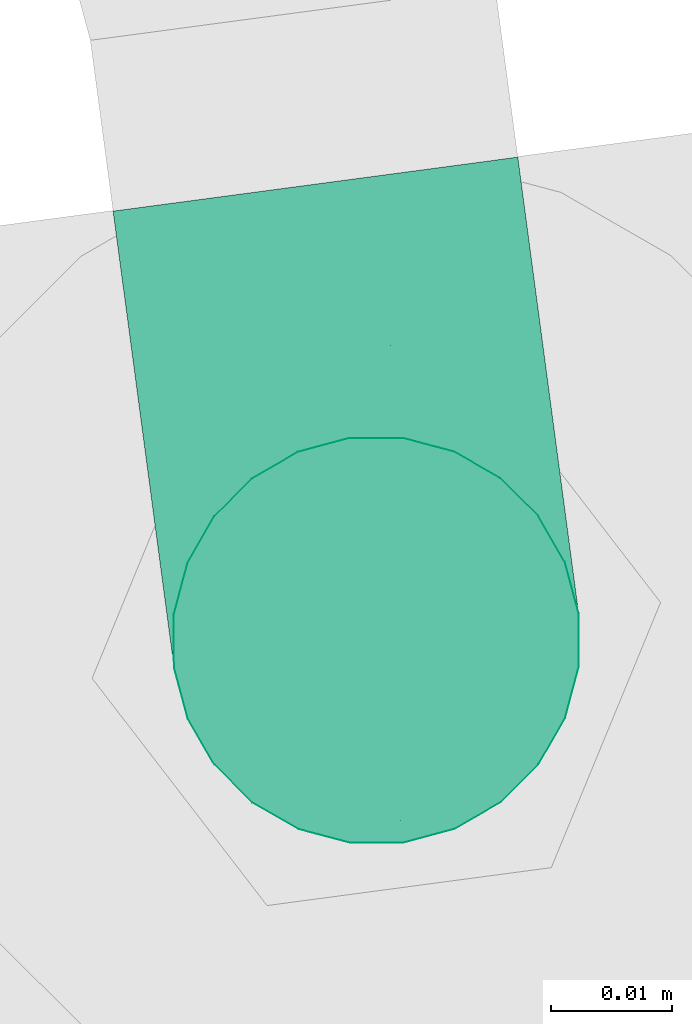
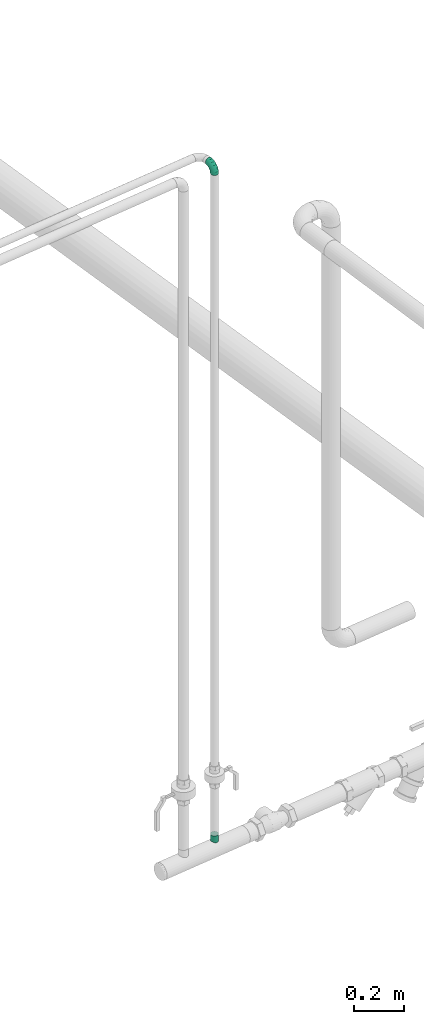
# One storey, part 361 of 374: 2 flow segments.
"""IFC2X3 building model written with IfcOpenShell, lengths in metres."""

from ifc_helpers import new_model, si_unit, direction, origin, place, context, subcontext, project, spatial, open_shell, surface_model, source, transform, mapped, element, save


model = new_model("IFC2X3")

# Units and contexts
model_context = context("Model", 3, precision=1e-05, world=origin(), true_north=direction((-0.4480736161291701, 0.8939966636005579)))
body_context = subcontext(model_context, "Body", "Model", "MODEL_VIEW")
ifc_project = project(units=[si_unit("LENGTHUNIT", "METRE"), si_unit("AREAUNIT", "SQUARE_METRE"), si_unit("VOLUMEUNIT", "CUBIC_METRE"), si_unit("PLANEANGLEUNIT", "RADIAN"), si_unit("THERMODYNAMICTEMPERATUREUNIT", "KELVIN"), si_unit("MASSUNIT", "GRAM", prefix="KILO"), si_unit("TIMEUNIT", "SECOND")], contexts=[model_context])

# Site, building, storey
site_placement = place(None, origin())
site = spatial("IfcSite", under=ifc_project, at=site_placement, Name="Site 1", CompositionType="ELEMENT")
building_placement = place(site_placement, origin())
building = spatial("IfcBuilding", under=site, at=building_placement, Name="Undefined", CompositionType="ELEMENT")
storey_placement = place(building_placement, origin())
storey = spatial("IfcBuildingStorey", under=building, at=storey_placement, Name="Rez de chauss\x8ee", CompositionType="ELEMENT", Elevation=0.0)

# Flow segments
shared_shape_1 = source(origin(), body_context, "Body", "SurfaceModel", [
    surface_model("IfcFaceBasedSurfaceModel", [(0.0002507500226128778, 0.004398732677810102, 0.0), (0.0, 0.0, 0.0), (0.030250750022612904, 0.0, 0.0), (0.030250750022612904, 0.004398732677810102, 0.0), (-0.0006936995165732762, -0.0042488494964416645, -0.0011384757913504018), (0.030250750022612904, -0.0042488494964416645, -0.0011384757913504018), (-0.001662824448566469, -0.008058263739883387, -0.0033378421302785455), (0.030250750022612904, -0.008058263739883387, -0.0033378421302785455), (-0.0026586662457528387, -0.011168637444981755, -0.0064482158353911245), (0.030250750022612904, -0.011168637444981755, -0.0064482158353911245), (-0.0034059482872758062, -0.013368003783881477, -0.010257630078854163), (0.030250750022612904, -0.013368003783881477, -0.010257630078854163), (-0.0036835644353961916, -0.014506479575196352, -0.014506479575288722), (0.030250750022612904, -0.014506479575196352, -0.014506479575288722), (-0.0034059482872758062, -0.014506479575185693, -0.018905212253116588), (0.030250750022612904, -0.014506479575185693, -0.018905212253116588), (-0.0026586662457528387, -0.013368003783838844, -0.023154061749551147), (0.030250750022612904, -0.013368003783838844, -0.023154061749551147), (-0.001662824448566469, -0.011168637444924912, -0.026963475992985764), (0.030250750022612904, -0.011168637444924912, -0.026963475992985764), (-0.0006936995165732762, -0.00805826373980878, -0.030073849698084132), (0.030250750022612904, -0.00805826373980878, -0.030073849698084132), (0.0, -0.004248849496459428, -0.03227321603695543), (0.030250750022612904, -0.004248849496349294, -0.03227321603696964), (0.0002507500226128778, 9.2370555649e-14, -0.033411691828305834), (0.030250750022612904, 9.2370555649e-14, -0.033411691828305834), (0.0, 0.00439873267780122, -0.03341169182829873), (0.030250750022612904, 0.004398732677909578, -0.033411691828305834), (-0.0006936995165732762, 0.00864758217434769, -0.03227321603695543), (0.030250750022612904, 0.00864758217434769, -0.03227321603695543), (-0.001662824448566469, 0.01245699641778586, -0.0300738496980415), (0.030250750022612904, 0.01245699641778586, -0.0300738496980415), (-0.0026586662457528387, 0.015567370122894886, -0.0269634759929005), (0.030250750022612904, 0.015567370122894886, -0.0269634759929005), (-0.0034059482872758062, 0.017766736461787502, -0.02315406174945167), (0.030250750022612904, 0.017766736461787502, -0.02315406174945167), (-0.0036835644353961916, 0.018905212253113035, -0.018905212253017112), (0.030250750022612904, 0.018905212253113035, -0.018905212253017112), (-0.0034059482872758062, 0.018905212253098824, -0.014506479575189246), (0.030250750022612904, 0.018905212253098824, -0.014506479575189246), (-0.0026586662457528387, 0.017766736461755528, -0.010257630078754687), (0.030250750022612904, 0.017766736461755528, -0.010257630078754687), (-0.001662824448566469, 0.01556737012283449, -0.006448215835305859), (0.030250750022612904, 0.01556737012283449, -0.006448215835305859), (-0.0006936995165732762, 0.012456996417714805, -0.003337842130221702), (0.030250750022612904, 0.012456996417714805, -0.003337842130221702), (0.0, 0.00864758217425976, -0.0011384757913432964), (0.030250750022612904, 0.008647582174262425, -0.00113847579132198)], [open_shell([[[0, 1, 2, 3]], [[1, 4, 5, 2]], [[4, 6, 7, 5]], [[6, 8, 9, 7]], [[8, 10, 11, 9]], [[10, 12, 13, 11]], [[12, 14, 15, 13]], [[14, 16, 17, 15]], [[16, 18, 19, 17]], [[18, 20, 21, 19]], [[20, 22, 23, 21]], [[22, 24, 25, 23]], [[24, 26, 27, 25]], [[26, 28, 29, 27]], [[28, 30, 31, 29]], [[30, 32, 33, 31]], [[32, 34, 35, 33]], [[34, 36, 37, 35]], [[36, 38, 39, 37]], [[38, 40, 41, 39]], [[40, 42, 43, 41]], [[42, 44, 45, 43]], [[44, 46, 47, 45]], [[46, 0, 3, 47]]])]),
])
flow_segment_1_placement = place(storey_placement, origin())
element("IfcFlowSegment", 1, at=flow_segment_1_placement, inside=storey, Name="Piquage sur circulaire 90°", ObjectType="Piquage sur circulaire 90°", context=body_context, shape_type="MappedRepresentation", body=[
    mapped(shared_shape_1, transform((66.07952184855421, 20.35199219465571, 0.7382320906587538), x_axis=(0.0, 0.0, 1.0), y_axis=(-0.26050450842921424, 0.965472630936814, 0.0), z_axis=(-0.965472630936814, -0.26050450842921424, 0.0))),
])
shared_shape_2 = source(origin(), body_context, "Body", "SurfaceModel", [
    surface_model("IfcFaceBasedSurfaceModel", [(0.014318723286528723, 0.0, 8.8817842e-16), (0.01424378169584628, 0.004398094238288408, 0.0), (7.494159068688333e-05, 0.004398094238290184, 0.0), (0.0, 0.0, 0.0), (-0.013611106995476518, 0.004872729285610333, -0.0036363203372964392), (-0.01383082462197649, 0.000479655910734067, -0.003674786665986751), (-0.02588168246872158, 0.005789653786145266, -0.010661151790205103), (-0.026231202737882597, 0.0014062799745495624, -0.010773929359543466), (-0.03590056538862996, 0.007086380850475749, -0.02059576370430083), (-0.036356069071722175, 0.0027167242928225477, -0.020813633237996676), (-0.04298498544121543, 0.008674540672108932, -0.03276312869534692), (-0.0435154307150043, 0.0043216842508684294, -0.03310970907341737), (-0.046652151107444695, 0.010445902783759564, -0.04633406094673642), (-0.04722138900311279, 0.006111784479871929, -0.04682419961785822), (0.01402406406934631, 0.008643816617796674, -0.00112889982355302), (0.0002946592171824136, 0.00864381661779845, -0.001128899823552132), (-0.01296692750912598, 0.009103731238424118, -0.00465244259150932), (-0.02485694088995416, 0.009992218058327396, -0.011459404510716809), (-0.03456509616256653, 0.011248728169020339, -0.021085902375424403), (-0.041429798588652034, 0.012787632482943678, -0.03287590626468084), (-0.04498323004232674, 0.014504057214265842, -0.04602594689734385), (0.013674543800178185, 0.012447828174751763, -0.0033097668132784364), (0.0006441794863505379, 0.012447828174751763, -0.003309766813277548), (-0.011942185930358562, 0.012884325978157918, -0.006653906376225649), (-0.023226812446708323, 0.013727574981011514, -0.01311428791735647), (-0.032440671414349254, 0.014920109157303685, -0.022250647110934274), (-0.038955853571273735, 0.016380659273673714, -0.03344035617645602), (-0.04232836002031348, 0.01800969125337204, -0.04592085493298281), (0.013219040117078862, 0.01555089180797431, -0.006393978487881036), (0.0010996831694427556, 0.015550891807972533, -0.006393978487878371), (-0.010606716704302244, 0.015956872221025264, -0.009504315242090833), (-0.021102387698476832, 0.016741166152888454, -0.01551302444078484), (-0.029672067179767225, 0.01785032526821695, -0.024010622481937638), (-0.035731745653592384, 0.01920876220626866, -0.03441801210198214), (-0.038868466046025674, 0.02072390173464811, -0.04602594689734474), (0.012688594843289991, 0.01774153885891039, -0.010171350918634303), (0.0016301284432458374, 0.01774153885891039, -0.010171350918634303), (-0.009051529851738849, 0.018111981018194, -0.013009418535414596), (-0.01862844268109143, 0.01882762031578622, -0.018492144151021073), (-0.026447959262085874, 0.019839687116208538, -0.02624588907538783), (-0.03197719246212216, 0.021079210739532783, -0.03574224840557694), (-0.034839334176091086, 0.022461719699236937, -0.04633406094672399), (0.012119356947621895, 0.018870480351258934, -0.014384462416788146), (0.0021993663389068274, 0.018870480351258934, -0.014384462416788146), (-0.007382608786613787, 0.019202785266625, -0.016930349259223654), (-0.015973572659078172, 0.019844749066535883, -0.021848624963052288), (-0.022988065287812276, 0.020752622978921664, -0.02880411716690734), (-0.027948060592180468, 0.021864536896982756, -0.03732282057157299), (-0.030515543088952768, 0.023104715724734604, -0.04682419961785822), (0.0115501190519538, 0.018860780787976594, -0.01874619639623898), (0.002768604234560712, 0.018860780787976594, -0.01874619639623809), (-0.005713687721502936, 0.019154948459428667, -0.020999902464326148), (-0.013318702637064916, 0.01972323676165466, -0.025353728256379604), (-0.019528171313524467, 0.02052691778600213, -0.03151096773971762), (-0.023918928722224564, 0.021511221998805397, -0.03905201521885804), (-0.02619175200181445, 0.02260907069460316, -0.04746296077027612), (0.011019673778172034, 0.01771310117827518, -0.022959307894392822), (0.0032990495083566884, 0.01771310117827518, -0.022959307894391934), (-0.004158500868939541, 0.017971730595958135, -0.0249407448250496), (-0.010844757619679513, 0.018471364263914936, -0.028768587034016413), (-0.01630406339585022, 0.019177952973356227, -0.03418197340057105), (-0.020164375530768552, 0.0200433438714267, -0.04081199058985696), (-0.022162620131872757, 0.02100856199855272, -0.04820681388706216), (0.010564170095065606, 0.015505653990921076, -0.02673668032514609), (0.0037545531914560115, 0.015505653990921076, -0.0267366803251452), (-0.002823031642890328, 0.01573376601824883, -0.028484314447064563), (-0.008720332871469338, 0.016174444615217, -0.03186048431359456), (-0.01353545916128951, 0.016797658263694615, -0.036635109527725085), (-0.016940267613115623, 0.017560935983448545, -0.042482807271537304), (-0.018702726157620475, 0.01841226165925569, -0.04900506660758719), (0.010214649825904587, 0.012388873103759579, -0.029820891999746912), (0.004104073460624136, 0.012388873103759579, -0.029820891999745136), (-0.0017982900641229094, 0.012593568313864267, -0.03138912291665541), (-0.007090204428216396, 0.012989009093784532, -0.03441871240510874), (-0.011411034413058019, 0.013548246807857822, -0.0387031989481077), (-0.014466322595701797, 0.014233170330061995, -0.04395060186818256), (-0.01604785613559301, 0.014997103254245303, -0.0498033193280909), (0.009994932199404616, 0.008575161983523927, -0.03200175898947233), (0.004323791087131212, 0.00857516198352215, -0.03200175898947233), (-0.001154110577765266, 0.00876513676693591, -0.03345721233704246), (-0.006065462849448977, 0.009132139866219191, -0.03626893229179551), (-0.0100755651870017, 0.009651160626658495, -0.04024530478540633), (-0.012911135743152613, 0.010286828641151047, -0.04511534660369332), (-0.014378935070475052, 0.010995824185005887, -0.05054717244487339), (0.009919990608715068, 0.004324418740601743, -0.03313065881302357), (0.004398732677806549, 0.004324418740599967, -0.03313065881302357), (-0.0009343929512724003, 0.004509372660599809, -0.03454764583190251), (-0.005715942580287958, 0.004866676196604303, -0.03728505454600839), (-0.009620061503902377, 0.005371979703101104, -0.041156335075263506), (-0.012380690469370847, 0.005990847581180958, -0.04589766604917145), (-0.013809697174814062, 0.006681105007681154, -0.05118593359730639), (0.009994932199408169, -7.367549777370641e-05, -0.03313065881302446), (0.004323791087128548, -7.36754977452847e-05, -0.03313065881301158), (-0.0011541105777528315, 0.00011629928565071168, -0.034586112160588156), (-0.006065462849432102, 0.000483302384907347, -0.03739783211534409), (-0.010075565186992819, 0.0010023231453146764, -0.04137420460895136), (-0.012911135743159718, 0.001637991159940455, -0.04624424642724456), (-0.014378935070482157, 0.002346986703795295, -0.05167607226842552), (0.010214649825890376, -0.004319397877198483, -0.03200175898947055), (0.00410407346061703, -0.0043193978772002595, -0.03200175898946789), (-0.0017982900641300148, -0.004114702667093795, -0.03356998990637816), (-0.007090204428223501, -0.0037192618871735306, -0.036599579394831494), (-0.011411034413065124, -0.00316002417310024, -0.04088406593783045), (-0.014466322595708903, -0.002475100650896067, -0.04613146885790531), (-0.016047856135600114, -0.0017111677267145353, -0.05198418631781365), (0.0105641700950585, -0.008123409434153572, -0.029820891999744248), (0.003754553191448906, -0.008123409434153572, -0.02982089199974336), (-0.0028230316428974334, -0.007895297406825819, -0.03156852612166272), (-0.008720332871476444, -0.007454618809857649, -0.03494469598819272), (-0.013535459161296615, -0.006831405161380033, -0.03971932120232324), (-0.016940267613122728, -0.006068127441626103, -0.04556701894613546), (-0.01870272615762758, -0.005216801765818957, -0.05208927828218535), (0.011019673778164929, -0.011226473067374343, -0.026736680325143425), (0.003299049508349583, -0.011226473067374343, -0.026736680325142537), (-0.004158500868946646, -0.010967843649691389, -0.028718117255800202), (-0.010844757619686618, -0.010468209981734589, -0.032545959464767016), (-0.016304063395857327, -0.009761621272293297, -0.037959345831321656), (-0.020164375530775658, -0.008896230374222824, -0.044589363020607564), (-0.022162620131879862, -0.007931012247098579, -0.051984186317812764), (0.011550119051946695, -0.013417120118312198, -0.02295930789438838), (0.0027686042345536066, -0.013417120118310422, -0.022959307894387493), (-0.005713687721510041, -0.013122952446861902, -0.02521301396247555), (-0.013318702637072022, -0.012554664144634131, -0.029566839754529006), (-0.019528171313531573, -0.011750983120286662, -0.035724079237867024), (-0.02391892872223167, -0.010766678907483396, -0.04326512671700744), (-0.026191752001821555, -0.009668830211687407, -0.05167607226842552), (0.01211935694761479, -0.014546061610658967, -0.018746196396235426), (0.002199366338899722, -0.014546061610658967, -0.018746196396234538), (-0.007382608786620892, -0.0142137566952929, -0.021292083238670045), (-0.015973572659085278, -0.013571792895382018, -0.02621035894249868), (-0.02298806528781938, -0.012663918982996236, -0.03316585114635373), (-0.027948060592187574, -0.011552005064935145, -0.04168455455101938), (-0.030515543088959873, -0.010311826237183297, -0.05118593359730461), (0.012688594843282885, -0.014536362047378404, -0.014384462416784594), (0.001630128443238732, -0.014536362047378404, -0.014384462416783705), (-0.009051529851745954, -0.014165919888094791, -0.017222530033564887), (-0.018628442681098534, -0.013450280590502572, -0.022705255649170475), (-0.02644795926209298, -0.012438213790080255, -0.03045900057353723), (-0.03197719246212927, -0.011198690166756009, -0.03995535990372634), (-0.03483933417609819, -0.009816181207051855, -0.05054717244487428), (0.013219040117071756, -0.013388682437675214, -0.010171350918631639), (0.0010996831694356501, -0.01338868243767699, -0.010171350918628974), (-0.010606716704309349, -0.01298270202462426, -0.013281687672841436), (-0.021102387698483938, -0.01219840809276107, -0.019290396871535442), (-0.02967206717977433, -0.011089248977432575, -0.02778799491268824), (-0.03573174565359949, -0.009730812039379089, -0.038195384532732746), (-0.03886846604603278, -0.008215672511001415, -0.04980331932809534), (0.01367454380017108, -0.011181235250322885, -0.006393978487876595), (0.0006441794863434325, -0.011181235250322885, -0.006393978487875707), (-0.011942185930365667, -0.01074473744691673, -0.009738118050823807), (-0.023226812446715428, -0.009901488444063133, -0.01619849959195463), (-0.03244067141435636, -0.008708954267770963, -0.02533485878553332), (-0.03895585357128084, -0.007248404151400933, -0.03652456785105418), (-0.04232836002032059, -0.005619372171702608, -0.04900506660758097), (0.014024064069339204, -0.008064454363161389, -0.003309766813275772), (0.0002946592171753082, -0.008064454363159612, -0.0033097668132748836), (-0.012966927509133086, -0.0076045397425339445, -0.006833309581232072), (-0.024856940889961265, -0.0067160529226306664, -0.01364027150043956), (-0.03456509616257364, -0.005459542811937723, -0.023266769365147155), (-0.04142979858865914, -0.003920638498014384, -0.03505677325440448), (-0.044983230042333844, -0.00220421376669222, -0.0482068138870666), (0.014243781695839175, -0.004250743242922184, -0.0011288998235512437), (7.494159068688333e-05, -0.004250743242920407, -0.0011288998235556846), (-0.013611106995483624, -0.0037761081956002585, -0.004765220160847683), (-0.025881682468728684, -0.002859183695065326, -0.011790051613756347), (-0.03590056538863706, -0.001562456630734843, -0.021724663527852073), (-0.04298498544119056, 2.570319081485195e-05, -0.033892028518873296), (-0.0466521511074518, 0.0017970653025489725, -0.047462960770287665)], [open_shell([[[0, 1, 2, 3]], [[3, 2, 4, 5]], [[5, 4, 6, 7]], [[7, 6, 8, 9]], [[9, 8, 10, 11]], [[11, 10, 12, 13]], [[1, 14, 15, 2]], [[2, 15, 16, 4]], [[4, 16, 17, 6]], [[6, 17, 18, 8]], [[8, 18, 19, 10]], [[10, 19, 20, 12]], [[14, 21, 22, 15]], [[15, 22, 23, 16]], [[16, 23, 24, 17]], [[17, 24, 25, 18]], [[18, 25, 26, 19]], [[19, 26, 27, 20]], [[21, 28, 29, 22]], [[22, 29, 30, 23]], [[23, 30, 31, 24]], [[24, 31, 32, 25]], [[25, 32, 33, 26]], [[26, 33, 34, 27]], [[28, 35, 36, 29]], [[29, 36, 37, 30]], [[30, 37, 38, 31]], [[31, 38, 39, 32]], [[32, 39, 40, 33]], [[33, 40, 41, 34]], [[35, 42, 43, 36]], [[36, 43, 44, 37]], [[37, 44, 45, 38]], [[38, 45, 46, 39]], [[39, 46, 47, 40]], [[40, 47, 48, 41]], [[42, 49, 50, 43]], [[43, 50, 51, 44]], [[44, 51, 52, 45]], [[45, 52, 53, 46]], [[46, 53, 54, 47]], [[47, 54, 55, 48]], [[49, 56, 57, 50]], [[50, 57, 58, 51]], [[51, 58, 59, 52]], [[52, 59, 60, 53]], [[53, 60, 61, 54]], [[54, 61, 62, 55]], [[56, 63, 64, 57]], [[57, 64, 65, 58]], [[58, 65, 66, 59]], [[59, 66, 67, 60]], [[60, 67, 68, 61]], [[61, 68, 69, 62]], [[63, 70, 71, 64]], [[64, 71, 72, 65]], [[65, 72, 73, 66]], [[66, 73, 74, 67]], [[67, 74, 75, 68]], [[68, 75, 76, 69]], [[70, 77, 78, 71]], [[71, 78, 79, 72]], [[72, 79, 80, 73]], [[73, 80, 81, 74]], [[74, 81, 82, 75]], [[75, 82, 83, 76]], [[77, 84, 85, 78]], [[78, 85, 86, 79]], [[79, 86, 87, 80]], [[80, 87, 88, 81]], [[81, 88, 89, 82]], [[82, 89, 90, 83]], [[84, 91, 92, 85]], [[85, 92, 93, 86]], [[86, 93, 94, 87]], [[87, 94, 95, 88]], [[88, 95, 96, 89]], [[89, 96, 97, 90]], [[91, 98, 99, 92]], [[92, 99, 100, 93]], [[93, 100, 101, 94]], [[94, 101, 102, 95]], [[95, 102, 103, 96]], [[96, 103, 104, 97]], [[98, 105, 106, 99]], [[99, 106, 107, 100]], [[100, 107, 108, 101]], [[101, 108, 109, 102]], [[102, 109, 110, 103]], [[103, 110, 111, 104]], [[105, 112, 113, 106]], [[106, 113, 114, 107]], [[107, 114, 115, 108]], [[108, 115, 116, 109]], [[109, 116, 117, 110]], [[110, 117, 118, 111]], [[112, 119, 120, 113]], [[113, 120, 121, 114]], [[114, 121, 122, 115]], [[115, 122, 123, 116]], [[116, 123, 124, 117]], [[117, 124, 125, 118]], [[119, 126, 127, 120]], [[120, 127, 128, 121]], [[121, 128, 129, 122]], [[122, 129, 130, 123]], [[123, 130, 131, 124]], [[124, 131, 132, 125]], [[126, 133, 134, 127]], [[127, 134, 135, 128]], [[128, 135, 136, 129]], [[129, 136, 137, 130]], [[130, 137, 138, 131]], [[131, 138, 139, 132]], [[133, 140, 141, 134]], [[134, 141, 142, 135]], [[135, 142, 143, 136]], [[136, 143, 144, 137]], [[137, 144, 145, 138]], [[138, 145, 146, 139]], [[140, 147, 148, 141]], [[141, 148, 149, 142]], [[142, 149, 150, 143]], [[143, 150, 151, 144]], [[144, 151, 152, 145]], [[145, 152, 153, 146]], [[147, 154, 155, 148]], [[148, 155, 156, 149]], [[149, 156, 157, 150]], [[150, 157, 158, 151]], [[151, 158, 159, 152]], [[152, 159, 160, 153]], [[154, 161, 162, 155]], [[155, 162, 163, 156]], [[156, 163, 164, 157]], [[157, 164, 165, 158]], [[158, 165, 166, 159]], [[159, 166, 167, 160]], [[161, 0, 3, 162]], [[162, 3, 5, 163]], [[163, 5, 7, 164]], [[164, 7, 9, 165]], [[165, 9, 11, 166]], [[166, 11, 13, 167]]])]),
])
flow_segment_2_placement = place(storey_placement, origin())
element("IfcFlowSegment", 2, at=flow_segment_2_placement, inside=storey, Name="Tube coudé", ObjectType="Tube coudé", context=body_context, shape_type="MappedRepresentation", body=[
    mapped(shared_shape_2, transform((66.09705927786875, 20.343618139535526, 3.9813366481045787), x_axis=(0.017262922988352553, -0.1293795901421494, -0.9914448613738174), y_axis=(0.965906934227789, 0.25833775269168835, -0.01689378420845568), z_axis=(0.2583133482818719, -0.9573518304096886, 0.12942830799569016))),
])

save(model, "model.ifc")
